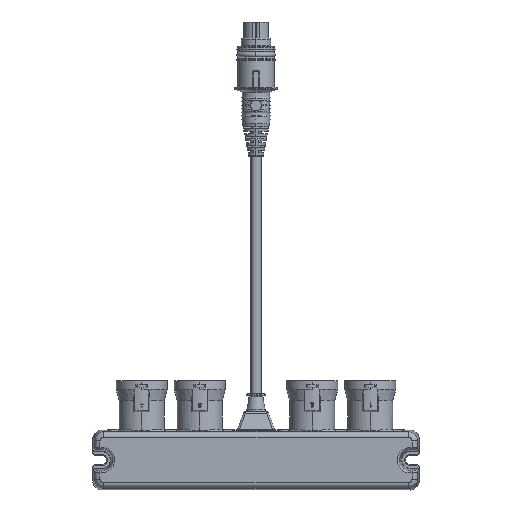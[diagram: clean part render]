
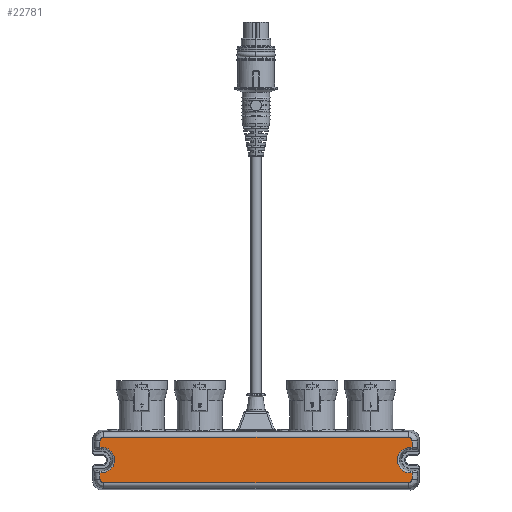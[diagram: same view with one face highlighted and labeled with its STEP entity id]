
A CAD part, left-side view. The second image highlights one B-rep face of the part: STEP entity #22781.
In plain terms, the highlighted planar face has unit normal (-1, 0, 0).
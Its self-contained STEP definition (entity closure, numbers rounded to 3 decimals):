
#4187=CARTESIAN_POINT('',(-30.5,-84.022,
-10.522));
#4188=DIRECTION('',(1.,0.,0.));
#4189=DIRECTION('',(0.,-1.,0.));
#4190=AXIS2_PLACEMENT_3D('',#4187,#4188,#4189);
#4192=CARTESIAN_POINT('',(-30.5,84.022,
-10.522));
#4193=DIRECTION('',(1.,0.,0.));
#4194=DIRECTION('',(0.,0.,-1.));
#4195=AXIS2_PLACEMENT_3D('',#4192,#4193,#4194);
#4197=CARTESIAN_POINT('',(-30.5,85.,0.));
#4198=DIRECTION('',(-1.,0.,0.));
#4199=DIRECTION('',(0.,0.,-1.));
#4200=AXIS2_PLACEMENT_3D('',#4197,#4198,#4199);
#4202=CARTESIAN_POINT('',(-30.5,85.,0.));
#4203=DIRECTION('',(-1.,0.,0.));
#4204=DIRECTION('',(0.,-0.053,-0.999));
#4205=AXIS2_PLACEMENT_3D('',#4202,#4203,#4204);
#4207=CARTESIAN_POINT('',(-30.5,84.022,10.522));
#4208=DIRECTION('',(1.,0.,0.));
#4209=DIRECTION('',(0.,1.,0.));
#4210=AXIS2_PLACEMENT_3D('',#4207,#4208,#4209);
#4212=CARTESIAN_POINT('',(-30.5,-84.022,
10.522));
#4213=DIRECTION('',(1.,0.,0.));
#4214=DIRECTION('',(0.,0.,1.));
#4215=AXIS2_PLACEMENT_3D('',#4212,#4213,#4214);
#4217=CARTESIAN_POINT('',(-30.5,-85.,0.));
#4218=DIRECTION('',(-1.,0.,0.));
#4219=DIRECTION('',(0.,0.,1.));
#4220=AXIS2_PLACEMENT_3D('',#4217,#4218,#4219);
#4222=CARTESIAN_POINT('',(-30.5,-85.,0.));
#4223=DIRECTION('',(-1.,0.,0.));
#4224=DIRECTION('',(0.,0.076,0.997));
#4225=AXIS2_PLACEMENT_3D('',#4222,#4223,#4224);
#4227=DIRECTION('',(0.,1.,0.));
#4228=VECTOR('',#4227,1.02);
#4229=CARTESIAN_POINT('',(-30.5,-86.02,
-7.048));
#4230=LINE('',#4229,#4228);
#4260=DIRECTION('',(0.,-1.,0.));
#4261=VECTOR('',#4260,1.02);
#4262=CARTESIAN_POINT('',(-30.5,-85.,
7.048));
#4263=LINE('',#4262,#4261);
#4293=DIRECTION('',(0.,0.,1.));
#4294=VECTOR('',#4293,3.473);
#4295=CARTESIAN_POINT('',(-30.5,-86.02,
7.048));
#4296=LINE('',#4295,#4294);
#4327=DIRECTION('',(0.,1.,0.));
#4328=VECTOR('',#4327,168.043);
#4329=CARTESIAN_POINT('',(-30.5,-84.022,
12.52));
#4330=LINE('',#4329,#4328);
#4380=DIRECTION('',(0.,0.,-1.));
#4381=VECTOR('',#4380,3.473);
#4382=CARTESIAN_POINT('',(-30.5,86.02,10.522));
#4383=LINE('',#4382,#4381);
#4394=DIRECTION('',(0.,-1.,0.));
#4395=VECTOR('',#4394,1.02);
#4396=CARTESIAN_POINT('',(-30.5,86.02,7.048));
#4397=LINE('',#4396,#4395);
#4427=DIRECTION('',(0.,1.,0.));
#4428=VECTOR('',#4427,1.02);
#4429=CARTESIAN_POINT('',(-30.5,85.,
-7.048));
#4430=LINE('',#4429,#4428);
#4460=DIRECTION('',(0.,0.,-1.));
#4461=VECTOR('',#4460,3.473);
#4462=CARTESIAN_POINT('',(-30.5,86.02,
-7.048));
#4463=LINE('',#4462,#4461);
#4494=DIRECTION('',(0.,-1.,0.));
#4495=VECTOR('',#4494,168.043);
#4496=CARTESIAN_POINT('',(-30.5,84.022,
-12.52));
#4497=LINE('',#4496,#4495);
#5889=DIRECTION('',(0.,0.,1.));
#5890=VECTOR('',#5889,3.473);
#5891=CARTESIAN_POINT('',(-30.5,-86.02,
-10.522));
#5892=LINE('',#5891,#5890);
#15786=CARTESIAN_POINT('',(-30.5,-86.02,
-10.522));
#15787=CARTESIAN_POINT('',(-30.5,-84.022,
-12.52));
#15788=VERTEX_POINT('',#15786);
#15789=VERTEX_POINT('',#15787);
#15790=CARTESIAN_POINT('',(-30.5,-86.02,
-7.048));
#15791=CARTESIAN_POINT('',(-30.5,-85.,
-7.048));
#15792=VERTEX_POINT('',#15790);
#15793=VERTEX_POINT('',#15791);
#15794=CARTESIAN_POINT('',(-30.5,84.022,
-12.52));
#15795=VERTEX_POINT('',#15794);
#15796=CARTESIAN_POINT('',(-30.5,86.02,
-10.522));
#15797=VERTEX_POINT('',#15796);
#15798=CARTESIAN_POINT('',(-30.5,86.02,
-7.048));
#15799=VERTEX_POINT('',#15798);
#15800=CARTESIAN_POINT('',(-30.5,85.,
-7.048));
#15801=VERTEX_POINT('',#15800);
#15802=CARTESIAN_POINT('',(-30.5,84.624,
-7.038));
#15803=VERTEX_POINT('',#15802);
#15804=CARTESIAN_POINT('',(-30.5,85.,
7.048));
#15805=VERTEX_POINT('',#15804);
#15806=CARTESIAN_POINT('',(-30.5,86.02,
7.048));
#15807=VERTEX_POINT('',#15806);
#15808=CARTESIAN_POINT('',(-30.5,86.02,
10.522));
#15809=VERTEX_POINT('',#15808);
#15810=CARTESIAN_POINT('',(-30.5,84.022,
12.52));
#15811=VERTEX_POINT('',#15810);
#15812=CARTESIAN_POINT('',(-30.5,-84.022,
12.52));
#15813=VERTEX_POINT('',#15812);
#15814=CARTESIAN_POINT('',(-30.5,-86.02,
10.522));
#15815=VERTEX_POINT('',#15814);
#15816=CARTESIAN_POINT('',(-30.5,-86.02,
7.048));
#15817=VERTEX_POINT('',#15816);
#15818=CARTESIAN_POINT('',(-30.5,-85.,
7.048));
#15819=VERTEX_POINT('',#15818);
#15820=CARTESIAN_POINT('',(-30.5,-84.466,
7.028));
#15821=VERTEX_POINT('',#15820);
#22739=CARTESIAN_POINT('',(-30.5,0.,0.));
#22740=DIRECTION('',(1.,0.,0.));
#22741=DIRECTION('',(0.,-1.,0.));
#22742=AXIS2_PLACEMENT_3D('',#22739,#22740,#22741);
#22743=PLANE('',#22742);
#22745=ORIENTED_EDGE('',*,*,#22744,.F.);
#22747=ORIENTED_EDGE('',*,*,#22746,.F.);
#22748=ORIENTED_EDGE('',*,*,#22729,.T.);
#22750=ORIENTED_EDGE('',*,*,#22749,.F.);
#22752=ORIENTED_EDGE('',*,*,#22751,.T.);
#22754=ORIENTED_EDGE('',*,*,#22753,.F.);
#22756=ORIENTED_EDGE('',*,*,#22755,.F.);
#22758=ORIENTED_EDGE('',*,*,#22757,.T.);
#22760=ORIENTED_EDGE('',*,*,#22759,.T.);
#22762=ORIENTED_EDGE('',*,*,#22761,.F.);
#22764=ORIENTED_EDGE('',*,*,#22763,.F.);
#22766=ORIENTED_EDGE('',*,*,#22765,.T.);
#22768=ORIENTED_EDGE('',*,*,#22767,.F.);
#22770=ORIENTED_EDGE('',*,*,#22769,.T.);
#22772=ORIENTED_EDGE('',*,*,#22771,.F.);
#22774=ORIENTED_EDGE('',*,*,#22773,.F.);
#22776=ORIENTED_EDGE('',*,*,#22775,.T.);
#22778=ORIENTED_EDGE('',*,*,#22777,.T.);
#22779=EDGE_LOOP('',(#22745,#22747,#22748,#22750,#22752,#22754,#22756,#22758,
#22760,#22762,#22764,#22766,#22768,#22770,#22772,#22774,#22776,#22778));
#22780=FACE_OUTER_BOUND('',#22779,.F.);
#22781=ADVANCED_FACE('',(#22780),#22743,.F.);
#4191=CIRCLE('',#4190,1.998);
#4196=CIRCLE('',#4195,1.998);
#4201=CIRCLE('',#4200,7.048);
#4206=CIRCLE('',#4205,7.048);
#4211=CIRCLE('',#4210,1.998);
#4216=CIRCLE('',#4215,1.998);
#4221=CIRCLE('',#4220,7.048);
#4226=CIRCLE('',#4225,7.048);
#22729=EDGE_CURVE('',#15788,#15789,#4191,.T.);
#22744=EDGE_CURVE('',#15792,#15793,#4230,.T.);
#22746=EDGE_CURVE('',#15788,#15792,#5892,.T.);
#22749=EDGE_CURVE('',#15795,#15789,#4497,.T.);
#22751=EDGE_CURVE('',#15795,#15797,#4196,.T.);
#22753=EDGE_CURVE('',#15799,#15797,#4463,.T.);
#22755=EDGE_CURVE('',#15801,#15799,#4430,.T.);
#22757=EDGE_CURVE('',#15801,#15803,#4201,.T.);
#22759=EDGE_CURVE('',#15803,#15805,#4206,.T.);
#22761=EDGE_CURVE('',#15807,#15805,#4397,.T.);
#22763=EDGE_CURVE('',#15809,#15807,#4383,.T.);
#22765=EDGE_CURVE('',#15809,#15811,#4211,.T.);
#22767=EDGE_CURVE('',#15813,#15811,#4330,.T.);
#22769=EDGE_CURVE('',#15813,#15815,#4216,.T.);
#22771=EDGE_CURVE('',#15817,#15815,#4296,.T.);
#22773=EDGE_CURVE('',#15819,#15817,#4263,.T.);
#22775=EDGE_CURVE('',#15819,#15821,#4221,.T.);
#22777=EDGE_CURVE('',#15821,#15793,#4226,.T.);
